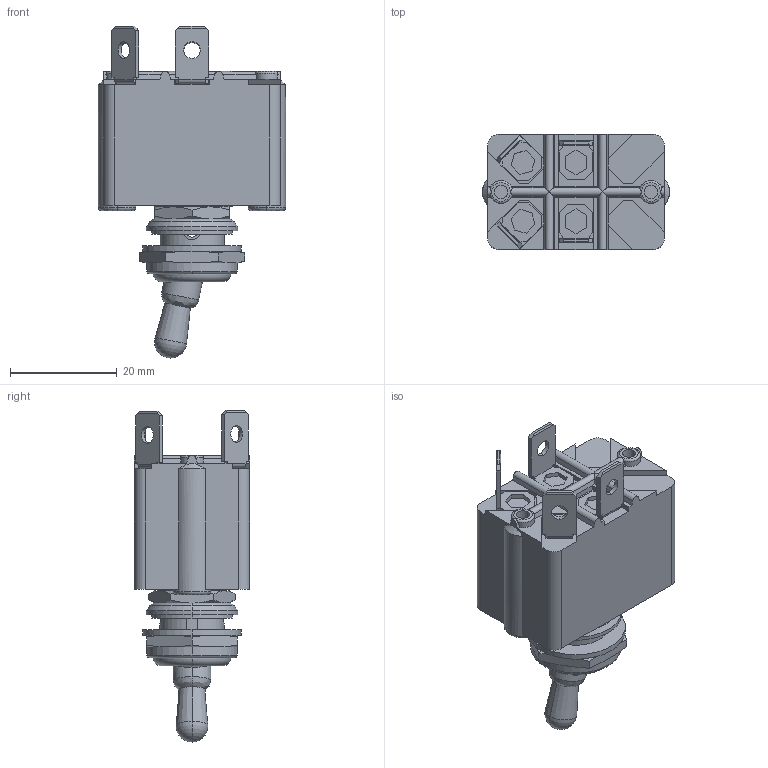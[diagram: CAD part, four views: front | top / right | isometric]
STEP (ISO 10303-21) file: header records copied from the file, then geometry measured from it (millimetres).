
FILE_DESCRIPTION((''),'2;1');
FILE_NAME('3641NF_2G_SW0001','2009-10-21T',('jlgachon'),(''),'PRO/ENGINEER BY PARAMETRIC TECHNOLOGY CORPORATION, 2008400','PRO/ENGINEER BY PARAMETRIC TECHNOLOGY CORPORATION, 2008400','');
FILE_SCHEMA(('CONFIG_CONTROL_DESIGN'));
Length unit declared in the file: millimetre
Products named in the file (1): 3641NF_2G_SW0001
Bounding box: 35 x 21.5 x 62.06 mm (x, y, z)
Volume: 18774.7 mm3; surface area: 8756.7 mm2
Topology: 3 solids, 3 shells, 495 faces, 1279 edges, 803 vertices
Faces by surface type: plane 307, cylinder 97, cone 46, torus 20, bspline 19, sphere 6
Entity records: 16882 total; most frequent: CARTESIAN_POINT 4979, ORIENTED_EDGE 2554, DIRECTION 2336, EDGE_CURVE 1277, VERTEX_POINT 803, VECTOR 782, LINE 782, AXIS2_PLACEMENT_3D 777
